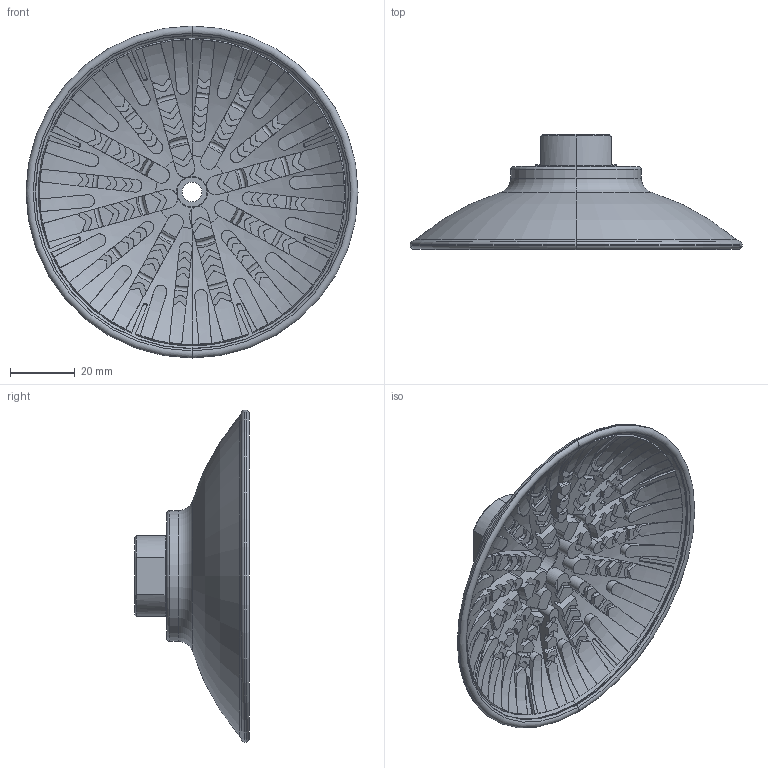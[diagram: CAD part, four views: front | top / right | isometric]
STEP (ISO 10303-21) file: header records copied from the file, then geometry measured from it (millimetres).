
FILE_DESCRIPTION (( 'STEP AP203' ), '1' );
FILE_NAME ('7R 102--F38.STEP', '2021-11-26T08:41:30', ( '' ), ( '' ), 'SwSTEP 2.0', 'SolidWorks 2021', '' );
FILE_SCHEMA (( 'CONFIG_CONTROL_DESIGN' ));
Length unit declared in the file: millimetre
Products named in the file (3): 7R 102--F38; 7R 102--A; insert 7R 102
Assembly tree (2 placements, depth 2):
  7R 102--F38
    7R 102--A
    insert 7R 102
Bounding box: 102.34 x 35.43 x 102.34 mm (x, y, z)
Volume: 47787.5 mm3; surface area: 28745.3 mm2
Topology: 2 solids, 2 shells, 911 faces, 2571 edges, 1671 vertices
Faces by surface type: plane 413, cylinder 254, torus 152, cone 92
Entity records: 33331 total; most frequent: CARTESIAN_POINT 10864, ORIENTED_EDGE 5142, DIRECTION 4016, EDGE_CURVE 2571, VERTEX_POINT 1671, AXIS2_PLACEMENT_3D 1483, VECTOR 1050, LINE 1050
